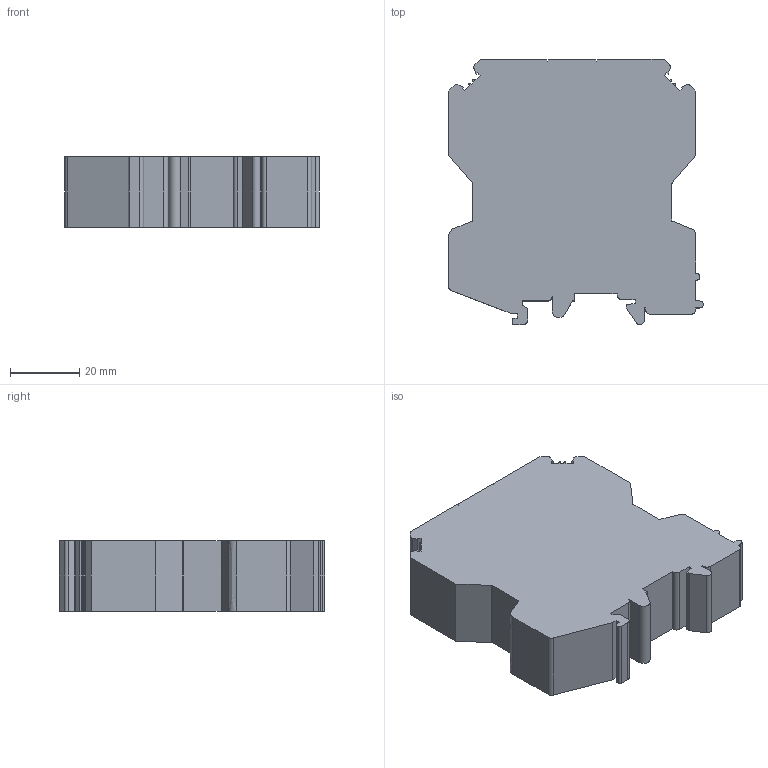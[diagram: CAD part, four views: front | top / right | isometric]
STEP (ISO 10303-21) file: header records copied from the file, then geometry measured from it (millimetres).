
FILE_DESCRIPTION(/* description */ (''),/* implementation_level */ '2;1');
FILE_NAME(/* name */ 'UT1-50.stp',/* time_stamp */ '2023-02-14T14:02:36+08:00',/* author */ (''),/* organization */ (''),/* preprocessor_version */ 'ST-DEVELOPER v16.7',/* originating_system */ 'SIEMENS PLM Software NX 12.0',/* authorisation */ '');
FILE_SCHEMA (('AUTOMOTIVE_DESIGN { 1 0 10303 214 3 1 1 1 }'));
Length unit declared in the file: inch
Products named in the file (1): Admi01CC23451npx
Bounding box: 73.5 x 76.5 x 20.2 mm (x, y, z)
Volume: 93473.4 mm3; surface area: 17555.5 mm2
Topology: 1 solids, 1 shells, 113 faces, 327 edges, 218 vertices
Faces by surface type: plane 85, cylinder 27, extrusion 1
Entity records: 3739 total; most frequent: CARTESIAN_POINT 673, ORIENTED_EDGE 654, DIRECTION 606, EDGE_CURVE 327, VECTOR 272, LINE 271, VERTEX_POINT 218, AXIS2_PLACEMENT_3D 167
